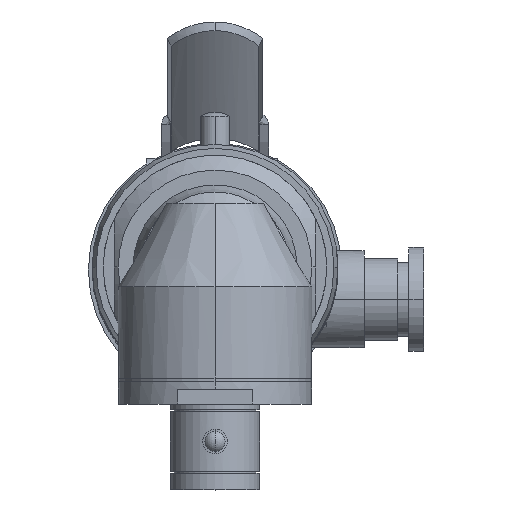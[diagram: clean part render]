
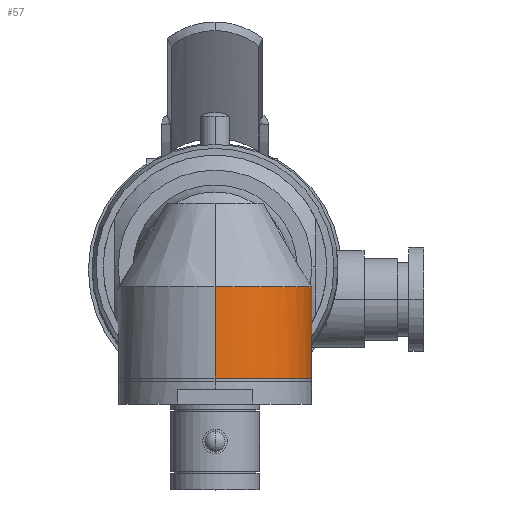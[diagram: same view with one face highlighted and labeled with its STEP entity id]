
A CAD part, top view. The second image highlights one B-rep face of the part: STEP entity #57.
In plain terms, the highlighted cylindrical face has radius 13 mm (diameter 26 mm), a partial arc.
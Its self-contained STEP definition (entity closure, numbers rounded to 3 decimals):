
#4 = ORIENTED_EDGE ( 'NONE', *, *, #36, .T. ) ;
#26 = VERTEX_POINT ( 'NONE', #2283 ) ;
#32 = VERTEX_POINT ( 'NONE', #2334 ) ;
#33 = EDGE_CURVE ( 'NONE', #41, #53, #2328, .T. ) ;
#34 = EDGE_CURVE ( 'NONE', #55, #53, #2324, .T. ) ;
#35 = ORIENTED_EDGE ( 'NONE', *, *, #40, .F. ) ;
#36 = EDGE_CURVE ( 'NONE', #32, #26, #2319, .T. ) ;
#39 = EDGE_CURVE ( 'NONE', #26, #55, #2314, .T. ) ;
#40 = EDGE_CURVE ( 'NONE', #32, #41, #2369, .T. ) ;
#41 = VERTEX_POINT ( 'NONE', #2368 ) ;
#43 = ORIENTED_EDGE ( 'NONE', *, *, #34, .T. ) ;
#47 = ORIENTED_EDGE ( 'NONE', *, *, #33, .F. ) ;
#51 = ORIENTED_EDGE ( 'NONE', *, *, #39, .T. ) ;
#53 = VERTEX_POINT ( 'NONE', #2409 ) ;
#55 = VERTEX_POINT ( 'NONE', #2408 ) ;
#56 = EDGE_LOOP ( 'NONE', ( #4, #51, #43, #47, #35 ) ) ;
#57 = ADVANCED_FACE ( 'NONE', ( #2381 ), #2377, .T. ) ;
#2283 = CARTESIAN_POINT ( 'NONE',  ( 0., -2.758, 13. ) ) ;
#2313 = CARTESIAN_POINT ( 'NONE',  ( 0., 8.5, 13. ) ) ;
#2314 = LINE ( 'NONE', #2313, #2371 ) ;
#2315 = DIRECTION ( 'NONE',  ( 0., 0., -1. ) ) ;
#2316 = DIRECTION ( 'NONE',  ( 0., -1., 0. ) ) ;
#2317 = CARTESIAN_POINT ( 'NONE',  ( 0., -2.758, 0. ) ) ;
#2318 = AXIS2_PLACEMENT_3D ( 'NONE', #2317, #2316, #2315 ) ;
#2319 = CIRCLE ( 'NONE', #2318, 13. ) ;
#2320 = DIRECTION ( 'NONE',  ( 0., 0., 1. ) ) ;
#2321 = DIRECTION ( 'NONE',  ( 0., 1., 0. ) ) ;
#2322 = CARTESIAN_POINT ( 'NONE',  ( 0., -15., 0. ) ) ;
#2323 = AXIS2_PLACEMENT_3D ( 'NONE', #2322, #2321, #2320 ) ;
#2324 = CIRCLE ( 'NONE', #2323, 13. ) ;
#2325 = DIRECTION ( 'NONE',  ( 0., -1., 0. ) ) ;
#2326 = VECTOR ( 'NONE', #2325, 1000. ) ;
#2327 = CARTESIAN_POINT ( 'NONE',  ( 0., 8.5, -13. ) ) ;
#2328 = LINE ( 'NONE', #2327, #2326 ) ;
#2334 = CARTESIAN_POINT ( 'NONE',  ( 9.612, -2.758, -8.753 ) ) ;
#2341 = CARTESIAN_POINT ( 'NONE',  ( 0., -10., -13. ) ) ;
#2342 = CARTESIAN_POINT ( 'NONE',  ( 0.572, -10., -13. ) ) ;
#2343 = CARTESIAN_POINT ( 'NONE',  ( 1.136, -9.951, -12.962 ) ) ;
#2344 = CARTESIAN_POINT ( 'NONE',  ( 2.248, -9.76, -12.817 ) ) ;
#2345 = CARTESIAN_POINT ( 'NONE',  ( 2.801, -9.616, -12.706 ) ) ;
#2346 = CARTESIAN_POINT ( 'NONE',  ( 3.845, -9.248, -12.43 ) ) ;
#2347 = CARTESIAN_POINT ( 'NONE',  ( 4.341, -9.025, -12.264 ) ) ;
#2348 = CARTESIAN_POINT ( 'NONE',  ( 5.051, -8.635, -11.981 ) ) ;
#2349 = CARTESIAN_POINT ( 'NONE',  ( 5.283, -8.495, -11.881 ) ) ;
#2350 = CARTESIAN_POINT ( 'NONE',  ( 5.729, -8.201, -11.672 ) ) ;
#2351 = CARTESIAN_POINT ( 'NONE',  ( 5.943, -8.046, -11.564 ) ) ;
#2352 = CARTESIAN_POINT ( 'NONE',  ( 6.563, -7.563, -11.231 ) ) ;
#2353 = CARTESIAN_POINT ( 'NONE',  ( 6.945, -7.213, -10.998 ) ) ;
#2354 = CARTESIAN_POINT ( 'NONE',  ( 7.652, -6.458, -10.518 ) ) ;
#2355 = CARTESIAN_POINT ( 'NONE',  ( 7.979, -6.05, -10.27 ) ) ;
#2356 = CARTESIAN_POINT ( 'NONE',  ( 8.561, -5.194, -9.79 ) ) ;
#2357 = CARTESIAN_POINT ( 'NONE',  ( 8.818, -4.745, -9.557 ) ) ;
#2358 = CARTESIAN_POINT ( 'NONE',  ( 9.155, -4.031, -9.23 ) ) ;
#2359 = CARTESIAN_POINT ( 'NONE',  ( 9.26, -3.786, -9.126 ) ) ;
#2365 = CARTESIAN_POINT ( 'NONE',  ( 9.45, -3.281, -8.928 ) ) ;
#2366 = CARTESIAN_POINT ( 'NONE',  ( 9.536, -3.022, -8.836 ) ) ;
#2367 = CARTESIAN_POINT ( 'NONE',  ( 9.612, -2.758, -8.753 ) ) ;
#2368 = CARTESIAN_POINT ( 'NONE',  ( 0., -10., -13. ) ) ;
#2369 = B_SPLINE_CURVE_WITH_KNOTS ( 'NONE', 3,
 ( #2367, #2366, #2365, #2359, #2358, #2357, #2356, #2355, #2354, #2353, #2352, #2351, #2350, #2349, #2348, #2347, #2346, #2345, #2344, #2343, #2342, #2341 ),
 .UNSPECIFIED., .F., .F.,
 ( 4, 2, 2, 2, 2, 2, 2, 2, 2, 2, 4 ),
 ( 0.019, 0.02, 0.021, 0.023, 0.024, 0.026, 0.027, 0.028, 0.029, 0.031, 0.033 ),
 .UNSPECIFIED. ) ;
#2370 = DIRECTION ( 'NONE',  ( 0., -1., 0. ) ) ;
#2371 = VECTOR ( 'NONE', #2370, 1000. ) ;
#2372 = DIRECTION ( 'NONE',  ( 0., 0., -1. ) ) ;
#2373 = DIRECTION ( 'NONE',  ( 0., -1., 0. ) ) ;
#2374 = CARTESIAN_POINT ( 'NONE',  ( 0., 8.5, 0. ) ) ;
#2375 = AXIS2_PLACEMENT_3D ( 'NONE', #2374, #2373, #2372 ) ;
#2377 = CYLINDRICAL_SURFACE ( 'NONE', #2375, 13. ) ;
#2381 = FACE_OUTER_BOUND ( 'NONE', #56, .T. ) ;
#2408 = CARTESIAN_POINT ( 'NONE',  ( 0., -15., 13. ) ) ;
#2409 = CARTESIAN_POINT ( 'NONE',  ( 0., -15., -13. ) ) ;
